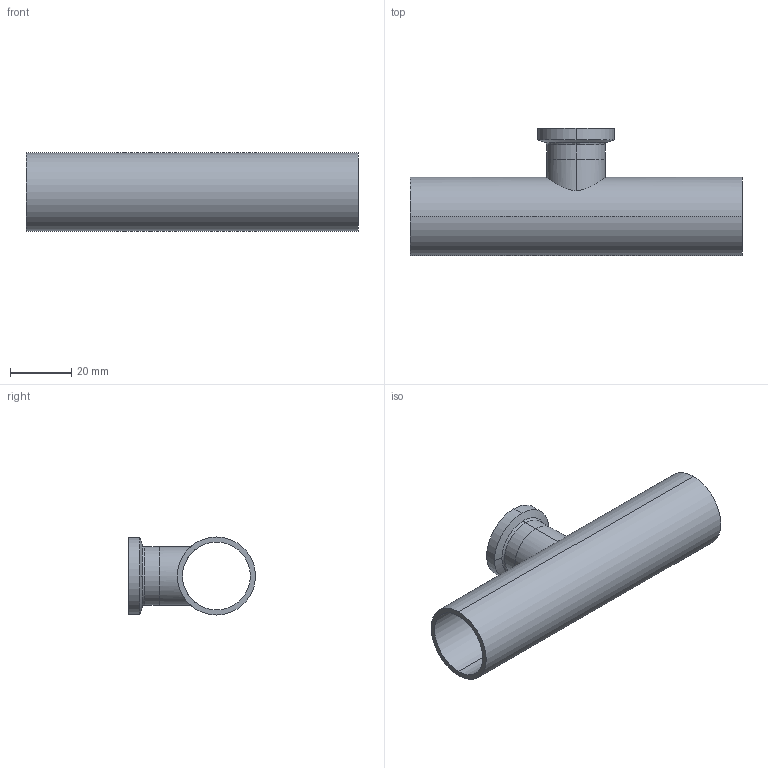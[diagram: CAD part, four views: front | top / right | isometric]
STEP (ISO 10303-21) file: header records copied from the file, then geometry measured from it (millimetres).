
FILE_DESCRIPTION (( 'STEP AP214' ), '1' );
FILE_NAME ('TE7RWWCS6L1.0x.75-...STEP', '2016-05-23T10:53:29', ( 'eran' ), ( '' ), 'SwSTEP 2.0', 'SolidWorks 2016', '' );
FILE_SCHEMA (( 'AUTOMOTIVE_DESIGN' ));
Length unit declared in the file: millimetre
Products named in the file (1): TE7RWWCS6L1.0x.75-..
Bounding box: 108 x 41.3 x 25.4 mm (x, y, z)
Volume: 15120.5 mm3; surface area: 18646.9 mm2
Topology: 2 solids, 2 shells, 34 faces, 76 edges, 48 vertices
Faces by surface type: cylinder 16, bspline 8, plane 6, cone 4
Entity records: 1287 total; most frequent: CARTESIAN_POINT 479, DIRECTION 170, ORIENTED_EDGE 152, EDGE_CURVE 76, AXIS2_PLACEMENT_3D 75, CIRCLE 48, VERTEX_POINT 48, EDGE_LOOP 42
